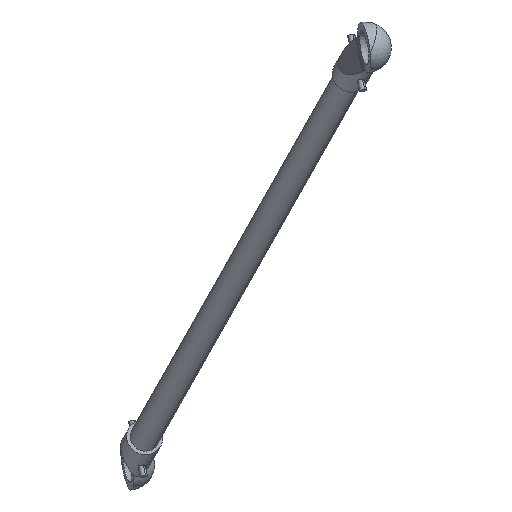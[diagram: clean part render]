
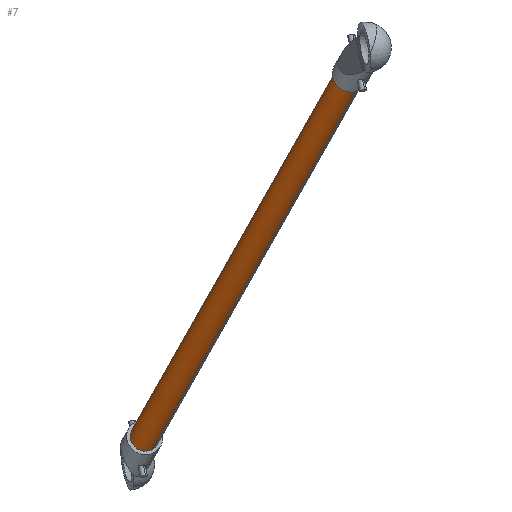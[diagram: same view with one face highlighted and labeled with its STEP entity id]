
A CAD part, isometric view. The second image highlights one B-rep face of the part: STEP entity #7.
In plain terms, the highlighted cylindrical face has radius 8 mm (diameter 16 mm), a partial arc.
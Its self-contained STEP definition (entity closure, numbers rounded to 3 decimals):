
#3 = DIRECTION ( 'NONE',  ( 0.003, -0.821, -0.571 ) ) ;
#7 = ADVANCED_FACE ( 'NONE', ( #1472 ), #850, .T. ) ;
#25 = EDGE_CURVE ( 'NONE', #616, #156, #124, .T. ) ;
#41 = CARTESIAN_POINT ( 'NONE',  ( -213.476, -480.365, -320.457 ) ) ;
#108 = CARTESIAN_POINT ( 'NONE',  ( 10.487, -92.448, -876.476 ) ) ;
#124 = LINE ( 'NONE', #1338, #642 ) ;
#156 = VERTEX_POINT ( 'NONE', #582 ) ;
#182 = ORIENTED_EDGE ( 'NONE', *, *, #1203, .T. ) ;
#187 = EDGE_CURVE ( 'NONE', #907, #354, #1533, .T. ) ;
#276 = CARTESIAN_POINT ( 'NONE',  ( 10.46, -85.882, -871.905 ) ) ;
#278 = CARTESIAN_POINT ( 'NONE',  ( 4.501, -96.205, -857.109 ) ) ;
#354 = VERTEX_POINT ( 'NONE', #41 ) ;
#582 = CARTESIAN_POINT ( 'NONE',  ( -213.53, -467.232, -311.316 ) ) ;
#588 = ORIENTED_EDGE ( 'NONE', *, *, #25, .F. ) ;
#589 = DIRECTION ( 'NONE',  ( 0.314, 0.543, -0.779 ) ) ;
#602 = DIRECTION ( 'NONE',  ( -0.314, -0.543, 0.779 ) ) ;
#616 = VERTEX_POINT ( 'NONE', #652 ) ;
#642 = VECTOR ( 'NONE', #602, 1000. ) ;
#652 = CARTESIAN_POINT ( 'NONE',  ( 4.474, -89.639, -852.539 ) ) ;
#850 = CYLINDRICAL_SURFACE ( 'NONE', #1503, 8. ) ;
#867 = VECTOR ( 'NONE', #1276, 1000. ) ;
#871 = EDGE_CURVE ( 'NONE', #616, #907, #1069, .T. ) ;
#907 = VERTEX_POINT ( 'NONE', #999 ) ;
#917 = AXIS2_PLACEMENT_3D ( 'NONE', #278, #1234, #1011 ) ;
#928 = ORIENTED_EDGE ( 'NONE', *, *, #871, .T. ) ;
#946 = DIRECTION ( 'NONE',  ( 0.003, -0.821, -0.571 ) ) ;
#952 = DIRECTION ( 'NONE',  ( -0.314, -0.543, 0.779 ) ) ;
#999 = CARTESIAN_POINT ( 'NONE',  ( 4.527, -102.771, -861.68 ) ) ;
#1011 = DIRECTION ( 'NONE',  ( 0.003, -0.821, -0.571 ) ) ;
#1064 = CARTESIAN_POINT ( 'NONE',  ( -213.503, -473.799, -315.887 ) ) ;
#1069 = CIRCLE ( 'NONE', #917, 8. ) ;
#1125 = ORIENTED_EDGE ( 'NONE', *, *, #187, .T. ) ;
#1203 = EDGE_CURVE ( 'NONE', #354, #156, #1486, .T. ) ;
#1234 = DIRECTION ( 'NONE',  ( -0.314, -0.543, 0.779 ) ) ;
#1276 = DIRECTION ( 'NONE',  ( -0.314, -0.543, 0.779 ) ) ;
#1326 = AXIS2_PLACEMENT_3D ( 'NONE', #1064, #589, #946 ) ;
#1338 = CARTESIAN_POINT ( 'NONE',  ( 10.433, -79.316, -867.335 ) ) ;
#1472 = FACE_OUTER_BOUND ( 'NONE', #1526, .T. ) ;
#1486 = CIRCLE ( 'NONE', #1326, 8. ) ;
#1503 = AXIS2_PLACEMENT_3D ( 'NONE', #276, #952, #3 ) ;
#1526 = EDGE_LOOP ( 'NONE', ( #588, #928, #1125, #182 ) ) ;
#1533 = LINE ( 'NONE', #108, #867 ) ;
